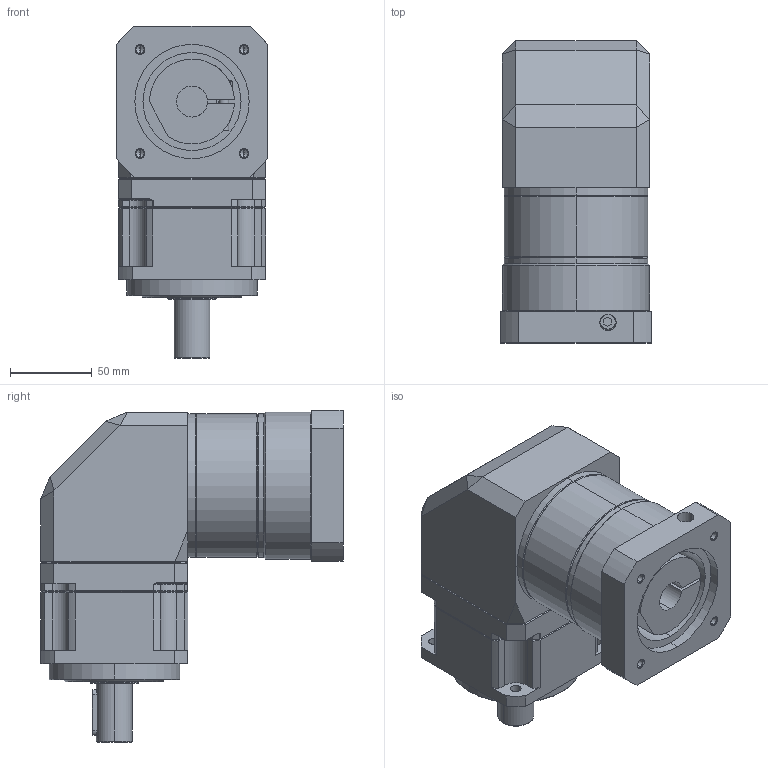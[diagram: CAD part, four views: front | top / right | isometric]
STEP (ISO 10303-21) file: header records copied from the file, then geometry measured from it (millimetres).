
FILE_DESCRIPTION(/* description */ (''),/* implementation_level */ '2;1');
FILE_NAME(/* name */ 'GBR090-_3-100_ 外形图-∅19x45-∅70x6-∅90xM6-□92.5_step.stp',/* time_stamp */ '2025-03-24T14:51:53+08:00',/* author */ (''),/* organization */ (''),/* preprocessor_version */ 'ST-DEVELOPER v18.102',/* originating_system */ 'SIEMENS PLM Software NX 2027',/* authorisation */ '');
FILE_SCHEMA (('AUTOMOTIVE_DESIGN { 1 0 10303 214 3 1 1 1 }'));
Length unit declared in the file: millimetre
Products named in the file (1): GBR090-_3-100_ 外形图-∅19x45-∅70x
6-∅90xM6-□90_step_objects
Bounding box: 92.5 x 185 x 203.25 mm (x, y, z)
Volume: 1671925.9 mm3; surface area: 127194.2 mm2
Topology: 1 solids, 1 shells, 306 faces, 697 edges, 403 vertices
Faces by surface type: plane 143, cylinder 88, cone 64, torus 9, bspline 2
Entity records: 8549 total; most frequent: CARTESIAN_POINT 1661, DIRECTION 1478, ORIENTED_EDGE 1368, EDGE_CURVE 684, AXIS2_PLACEMENT_3D 534, LINE 410, VECTOR 410, VERTEX_POINT 402
